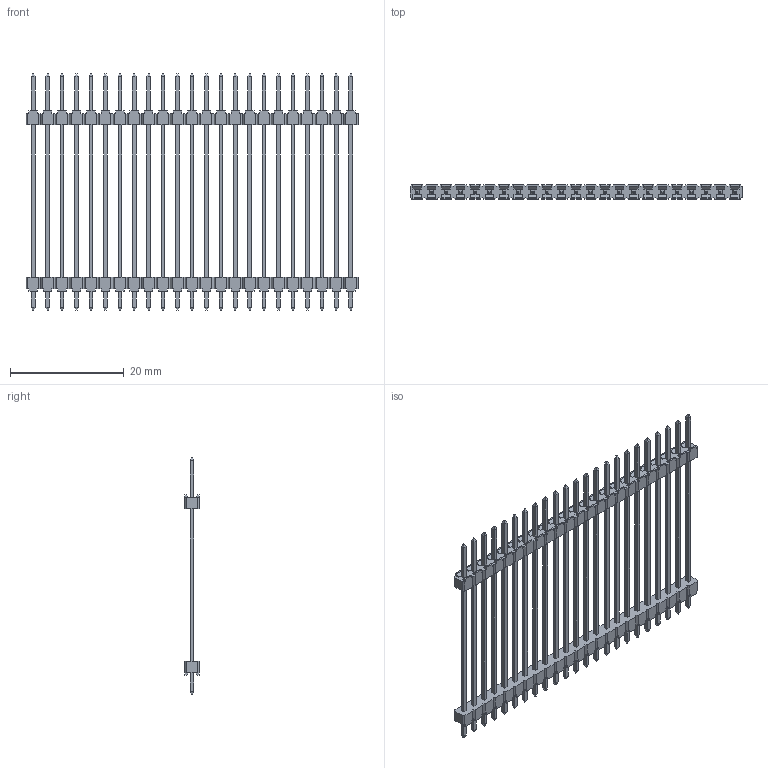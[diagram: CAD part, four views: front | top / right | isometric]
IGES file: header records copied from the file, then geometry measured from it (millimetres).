
Global section: file name: N:\GOLF_VI_2_54mm_UGII\9614XX-X04XX04-XX (TS-2185)\961423-9041604-XX.igs; native system: NX V3.0; preprocessor: UGS NX IGES V4.0; date: 20070618.105449; units: millimetre
Bounding box: 58.42 x 2.5 x 41.6 mm (x, y, z)
Surface area: 3384.9 mm2 (no closed solid volume)
Topology: 0 solids, 0 shells, 1254 faces, 6857 edges, 6857 vertices
Faces by surface type: bspline 1254
